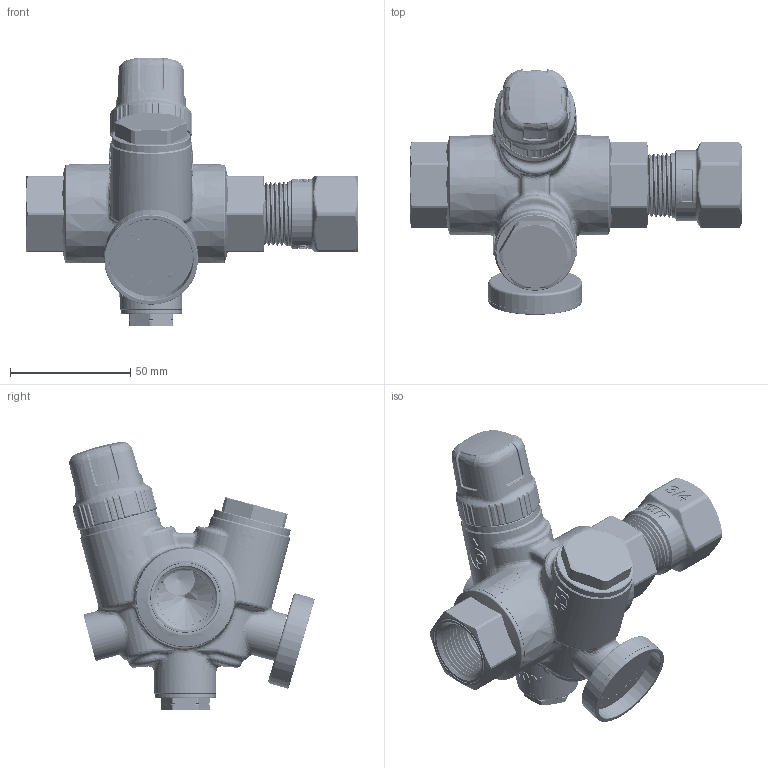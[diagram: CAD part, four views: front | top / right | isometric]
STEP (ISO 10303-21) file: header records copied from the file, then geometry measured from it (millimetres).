
FILE_DESCRIPTION(('Open CASCADE Model'),'2;1');
FILE_NAME('Open CASCADE Shape Model','2022-01-26T10:15:23',('Author'),( 'Open CASCADE'),'Open CASCADE STEP processor 7.3','Open CASCADE 7.3' ,'Unknown');
FILE_SCHEMA(('AUTOMOTIVE_DESIGN { 1 0 10303 214 1 1 1 1 }'));
Length unit declared in the file: millimetre
Products named in the file (25): Open CASCADE STEP translator 7.3 1; Open CASCADE STEP translator 7.3 1.1; Open CASCADE STEP translator 7.3 1.1.1; Open CASCADE STEP translator 7.3 1.1.2; Open CASCADE STEP translator 7.3 1.1.3; Open CASCADE STEP translator 7.3 1.2; Open CASCADE STEP translator 7.3 1.2.1; Open CASCADE STEP translator 7.3 1.2.2; Open CASCADE STEP translator 7.3 1.2.3; Open CASCADE STEP translator 7.3 1.2.4; Open CASCADE STEP translator 7.3 1.2.5; Open CASCADE STEP translator 7.3 1.2.6; Open CASCADE STEP translator 7.3 1.2.7; Open CASCADE STEP translator 7.3 1.2.8; Open CASCADE STEP translator 7.3 1.2.9; Open CASCADE STEP translator 7.3 1.2.10; Open CASCADE STEP translator 7.3 1.2.11; Open CASCADE STEP translator 7.3 1.2.12; Open CASCADE STEP translator 7.3 1.2.13; Open CASCADE STEP translator 7.3 1.2.14; Open CASCADE STEP translator 7.3 1.2.15; Open CASCADE STEP translator 7.3 1.2.16; Open CASCADE STEP translator 7.3 1.2.17; Open CASCADE STEP translator 7.3 1.2.18; Open CASCADE STEP translator 7.3 1.2.19
Assembly tree (24 placements, depth 3):
  Open CASCADE STEP translator 7.3 1
    Open CASCADE STEP translator 7.3 1.1
      Open CASCADE STEP translator 7.3 1.1.1
      Open CASCADE STEP translator 7.3 1.1.2
      Open CASCADE STEP translator 7.3 1.1.3
    Open CASCADE STEP translator 7.3 1.2
      Open CASCADE STEP translator 7.3 1.2.1
      Open CASCADE STEP translator 7.3 1.2.2
      Open CASCADE STEP translator 7.3 1.2.3
      Open CASCADE STEP translator 7.3 1.2.4
      Open CASCADE STEP translator 7.3 1.2.5
      Open CASCADE STEP translator 7.3 1.2.6
      Open CASCADE STEP translator 7.3 1.2.7
      Open CASCADE STEP translator 7.3 1.2.8
      Open CASCADE STEP translator 7.3 1.2.9
      Open CASCADE STEP translator 7.3 1.2.10
      Open CASCADE STEP translator 7.3 1.2.11
      Open CASCADE STEP translator 7.3 1.2.12
      Open CASCADE STEP translator 7.3 1.2.13
      Open CASCADE STEP translator 7.3 1.2.14
      Open CASCADE STEP translator 7.3 1.2.15
      Open CASCADE STEP translator 7.3 1.2.16
      Open CASCADE STEP translator 7.3 1.2.17
      Open CASCADE STEP translator 7.3 1.2.18
      Open CASCADE STEP translator 7.3 1.2.19
Bounding box: 138 x 102.01 x 111.79 mm (x, y, z)
Volume: 150768.5 mm3; surface area: 103880.3 mm2
Topology: 22 solids, 23 shells, 5321 faces, 13789 edges, 8712 vertices
Faces by surface type: extrusion 1469, plane 1257, cylinder 1066, bspline 606, cone 488, torus 319, sphere 64, revolution 52
Entity records: 593410 total; most frequent: CARTESIAN_POINT 351920, DIRECTION 32525, ORIENTED_EDGE 27542, PCURVE 27542, DEFINITIONAL_REPRESENTATION 27542, B_SPLINE_CURVE_WITH_KNOTS 20999, VECTOR 18660, LINE 17191
